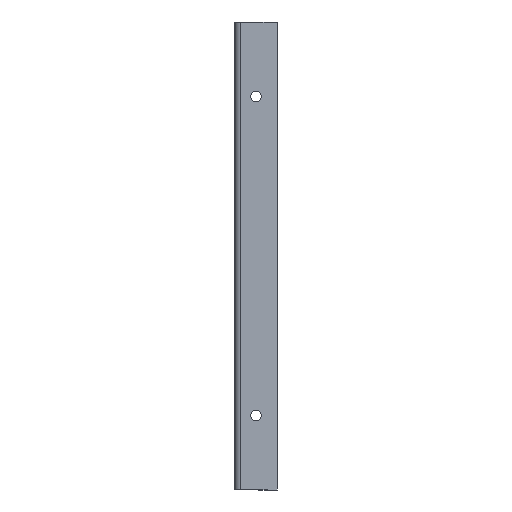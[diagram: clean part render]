
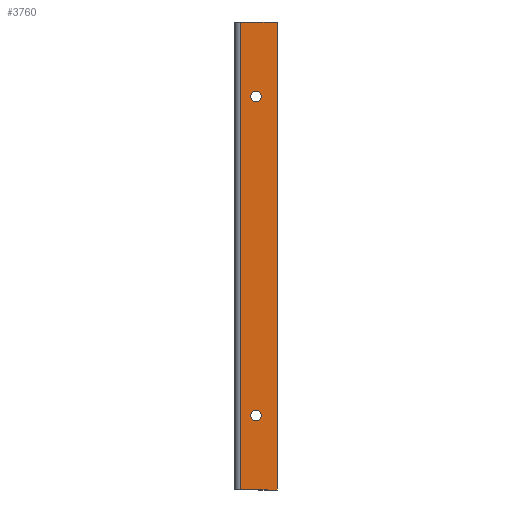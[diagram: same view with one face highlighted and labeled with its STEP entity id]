
A CAD part, front view. The second image highlights one B-rep face of the part: STEP entity #3760.
In plain terms, the highlighted planar face has unit normal (0, -1, 0).
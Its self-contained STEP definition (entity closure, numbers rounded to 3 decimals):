
#31 = LINE ( 'NONE', #612, #5308 ) ;
#50 = ORIENTED_EDGE ( 'NONE', *, *, #5935, .F. ) ;
#163 = CARTESIAN_POINT ( 'NONE',  ( 120., -2., 100. ) ) ;
#164 = DIRECTION ( 'NONE',  ( 0., -1., 0. ) ) ;
#167 = ORIENTED_EDGE ( 'NONE', *, *, #226, .F. ) ;
#226 = EDGE_CURVE ( 'NONE', #1493, #4412, #292, .T. ) ;
#292 = CIRCLE ( 'NONE', #2399, 2.5 ) ;
#561 = CIRCLE ( 'NONE', #5493, 2.5 ) ;
#587 = VECTOR ( 'NONE', #4621, 1000. ) ;
#612 = CARTESIAN_POINT ( 'NONE',  ( 102.736, -2., 100. ) ) ;
#683 = DIRECTION ( 'NONE',  ( 0., -1., 0. ) ) ;
#858 = ORIENTED_EDGE ( 'NONE', *, *, #2943, .F. ) ;
#950 = DIRECTION ( 'NONE',  ( 1., 0., 0. ) ) ;
#1271 = FACE_BOUND ( 'NONE', #5767, .T. ) ;
#1299 = CARTESIAN_POINT ( 'NONE',  ( 110., -2., 65. ) ) ;
#1417 = CARTESIAN_POINT ( 'NONE',  ( 110., -2., -85. ) ) ;
#1428 = EDGE_LOOP ( 'NONE', ( #167, #50 ) ) ;
#1493 = VERTEX_POINT ( 'NONE', #3968 ) ;
#1552 = CARTESIAN_POINT ( 'NONE',  ( 120., -2., 100. ) ) ;
#1578 = ORIENTED_EDGE ( 'NONE', *, *, #2616, .T. ) ;
#1585 = AXIS2_PLACEMENT_3D ( 'NONE', #1299, #2807, #6122 ) ;
#1647 = EDGE_LOOP ( 'NONE', ( #858, #1578, #6116, #2830 ) ) ;
#1715 = DIRECTION ( 'NONE',  ( 0., -1., 0. ) ) ;
#1818 = CARTESIAN_POINT ( 'NONE',  ( 110., -2., 62.5 ) ) ;
#1826 = FACE_OUTER_BOUND ( 'NONE', #1647, .T. ) ;
#2108 = DIRECTION ( 'NONE',  ( 0., 0., -1. ) ) ;
#2129 = PLANE ( 'NONE',  #2885 ) ;
#2180 = DIRECTION ( 'NONE',  ( -1., 0., 0. ) ) ;
#2233 = CARTESIAN_POINT ( 'NONE',  ( 110., -2., -85. ) ) ;
#2277 = VECTOR ( 'NONE', #950, 1000. ) ;
#2295 = CARTESIAN_POINT ( 'NONE',  ( 120., -2., 100. ) ) ;
#2399 = AXIS2_PLACEMENT_3D ( 'NONE', #1417, #3503, #5547 ) ;
#2616 = EDGE_CURVE ( 'NONE', #5687, #5430, #31, .T. ) ;
#2771 = DIRECTION ( 'NONE',  ( -1., 0., 0. ) ) ;
#2792 = CARTESIAN_POINT ( 'NONE',  ( 102.736, -2., -120. ) ) ;
#2804 = VERTEX_POINT ( 'NONE', #4947 ) ;
#2807 = DIRECTION ( 'NONE',  ( 0., -1., 0. ) ) ;
#2830 = ORIENTED_EDGE ( 'NONE', *, *, #3642, .F. ) ;
#2832 = CARTESIAN_POINT ( 'NONE',  ( 110., -2., -87.5 ) ) ;
#2885 = AXIS2_PLACEMENT_3D ( 'NONE', #163, #683, #2180 ) ;
#2941 = CARTESIAN_POINT ( 'NONE',  ( 120., -2., -120. ) ) ;
#2943 = EDGE_CURVE ( 'NONE', #5687, #4391, #6169, .T. ) ;
#3324 = VECTOR ( 'NONE', #2771, 1000. ) ;
#3352 = CIRCLE ( 'NONE', #4145, 2.5 ) ;
#3503 = DIRECTION ( 'NONE',  ( 0., -1., 0. ) ) ;
#3513 = CARTESIAN_POINT ( 'NONE',  ( 102.736, -2., 100. ) ) ;
#3526 = VERTEX_POINT ( 'NONE', #2941 ) ;
#3642 = EDGE_CURVE ( 'NONE', #4391, #3526, #5709, .T. ) ;
#3760 = ADVANCED_FACE ( 'NONE', ( #3908, #1271, #1826 ), #2129, .T. ) ;
#3876 = VERTEX_POINT ( 'NONE', #1818 ) ;
#3908 = FACE_BOUND ( 'NONE', #1428, .T. ) ;
#3968 = CARTESIAN_POINT ( 'NONE',  ( 110., -2., -82.5 ) ) ;
#4015 = CARTESIAN_POINT ( 'NONE',  ( 120., -2., 100. ) ) ;
#4145 = AXIS2_PLACEMENT_3D ( 'NONE', #2233, #1715, #5301 ) ;
#4168 = DIRECTION ( 'NONE',  ( 0., 0., -1. ) ) ;
#4283 = CARTESIAN_POINT ( 'NONE',  ( 120., -2., -120. ) ) ;
#4391 = VERTEX_POINT ( 'NONE', #2295 ) ;
#4412 = VERTEX_POINT ( 'NONE', #2832 ) ;
#4470 = CIRCLE ( 'NONE', #1585, 2.5 ) ;
#4486 = EDGE_CURVE ( 'NONE', #2804, #3876, #4470, .T. ) ;
#4621 = DIRECTION ( 'NONE',  ( 0., 0., -1. ) ) ;
#4785 = EDGE_CURVE ( 'NONE', #3876, #2804, #561, .T. ) ;
#4947 = CARTESIAN_POINT ( 'NONE',  ( 110., -2., 67.5 ) ) ;
#5301 = DIRECTION ( 'NONE',  ( 0., 0., -1. ) ) ;
#5308 = VECTOR ( 'NONE', #4168, 1000. ) ;
#5423 = EDGE_CURVE ( 'NONE', #3526, #5430, #6092, .T. ) ;
#5430 = VERTEX_POINT ( 'NONE', #2792 ) ;
#5493 = AXIS2_PLACEMENT_3D ( 'NONE', #5794, #164, #2108 ) ;
#5547 = DIRECTION ( 'NONE',  ( 0., 0., -1. ) ) ;
#5687 = VERTEX_POINT ( 'NONE', #3513 ) ;
#5709 = LINE ( 'NONE', #1552, #587 ) ;
#5759 = ORIENTED_EDGE ( 'NONE', *, *, #4486, .F. ) ;
#5767 = EDGE_LOOP ( 'NONE', ( #5759, #6595 ) ) ;
#5794 = CARTESIAN_POINT ( 'NONE',  ( 110., -2., 65. ) ) ;
#5935 = EDGE_CURVE ( 'NONE', #4412, #1493, #3352, .T. ) ;
#6092 = LINE ( 'NONE', #4283, #3324 ) ;
#6116 = ORIENTED_EDGE ( 'NONE', *, *, #5423, .F. ) ;
#6122 = DIRECTION ( 'NONE',  ( 0., 0., -1. ) ) ;
#6169 = LINE ( 'NONE', #4015, #2277 ) ;
#6595 = ORIENTED_EDGE ( 'NONE', *, *, #4785, .F. ) ;
